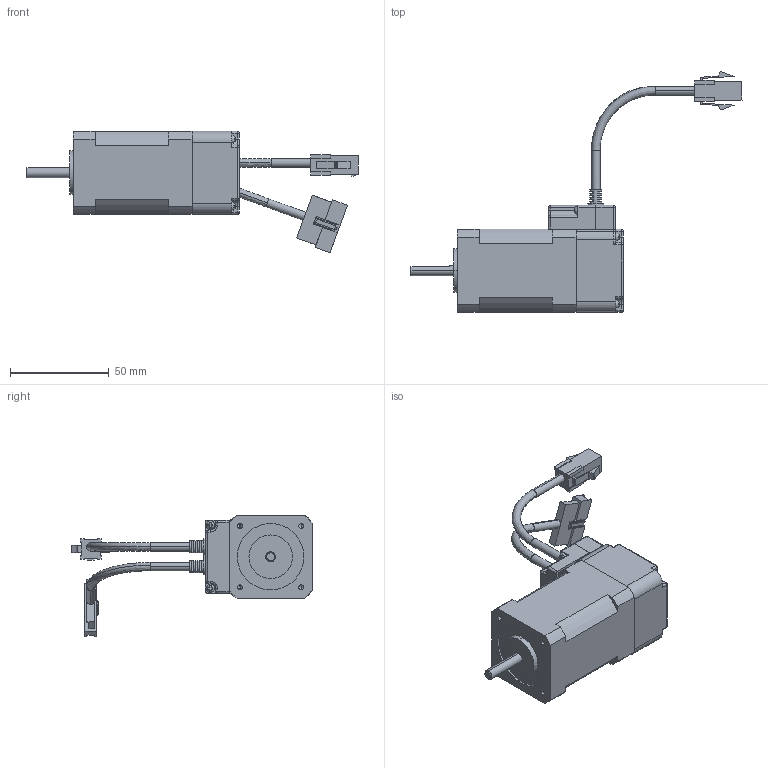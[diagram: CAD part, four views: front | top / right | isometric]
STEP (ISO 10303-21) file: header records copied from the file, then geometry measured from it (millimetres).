
FILE_DESCRIPTION (( 'STEP AP203' ), '1' );
FILE_NAME ('M11-MO-042-04-R00.STEP', '2014-12-21T05:07:28', ( 'Registered User' ), ( 'Microsoft Corporation' ), 'SwSTEP 2.0', 'SolidWorks 2013', '' );
FILE_SCHEMA (( 'CONFIG_CONTROL_DESIGN' ));
Length unit declared in the file: millimetre
Products named in the file (10): MainEncoder_Mounting_Plate-1-6; MainM3-screw-1-5; Mainconnector_e-1-9; Maincable-1-6; MainEzM-42S-assembly-1; EzM-42S Assembly_091218; M11-MO-042-04-R00(EzM-42XL-01)_湀_; M11-MO-042-04-R00; MainEZSV_42_Cable_Cover-1-1; MainEZSV_42_Encoder_Cover-1-1
Assembly tree (14 placements, depth 4):
  M11-MO-042-04-R00
    M11-MO-042-04-R00(EzM-42XL-01)_湀_
    EzM-42S Assembly_091218
      MainEzM-42S-assembly-1
        MainEZSV_42_Cable_Cover-1-1
        MainEZSV_42_Encoder_Cover-1-1
        MainEncoder_Mounting_Plate-1-6
        MainM3-screw-1-5  x6
        Mainconnector_e-1-9
        Maincable-1-6
Bounding box: 167.99 x 121.62 x 61.49 mm (x, y, z)
Volume: 123102.8 mm3; surface area: 41513 mm2
Topology: 12 solids, 12 shells, 788 faces, 2056 edges, 1318 vertices
Faces by surface type: plane 433, cylinder 299, bspline 34, cone 22
Entity records: 22429 total; most frequent: CARTESIAN_POINT 4278, DIRECTION 3654, ORIENTED_EDGE 3468, EDGE_CURVE 1734, AXIS2_PLACEMENT_3D 1280, VERTEX_POINT 1128, VECTOR 1094, LINE 1094
